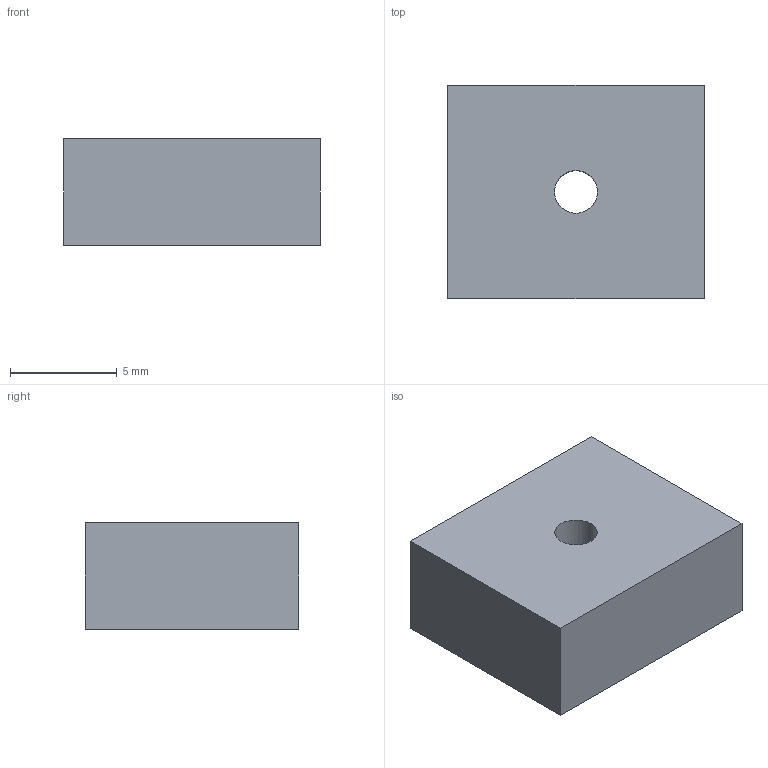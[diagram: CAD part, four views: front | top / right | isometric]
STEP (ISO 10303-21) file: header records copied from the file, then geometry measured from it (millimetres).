
FILE_DESCRIPTION(('Open CASCADE Model'),'2;1');
FILE_NAME('Open CASCADE Shape Model','2000-01-01T00:00:00',('Author'),( 'Open CASCADE'),'Open CASCADE STEP processor 7.9','Open CASCADE 7.9' ,'Unknown');
FILE_SCHEMA(('AUTOMOTIVE_DESIGN { 1 0 10303 214 1 1 1 1 }'));
Length unit declared in the file: millimetre
Products named in the file (1): Open CASCADE STEP translator 7.9 1
Bounding box: 12 x 10 x 5 mm (x, y, z)
Volume: 584.3 mm3; surface area: 485.1 mm2
Topology: 1 solids, 1 shells, 7 faces, 15 edges, 10 vertices
Faces by surface type: plane 6, cylinder 1
Full cylindrical faces by diameter (mm): 2 x1
Entity records: 400 total; most frequent: CARTESIAN_POINT 63, DIRECTION 63, LINE 41, VECTOR 41, ORIENTED_EDGE 30, PCURVE 30, DEFINITIONAL_REPRESENTATION 30, EDGE_CURVE 15
